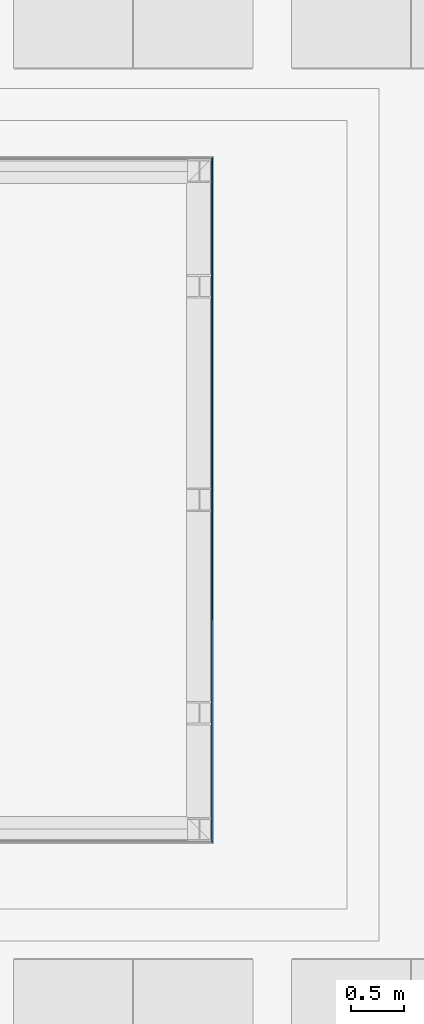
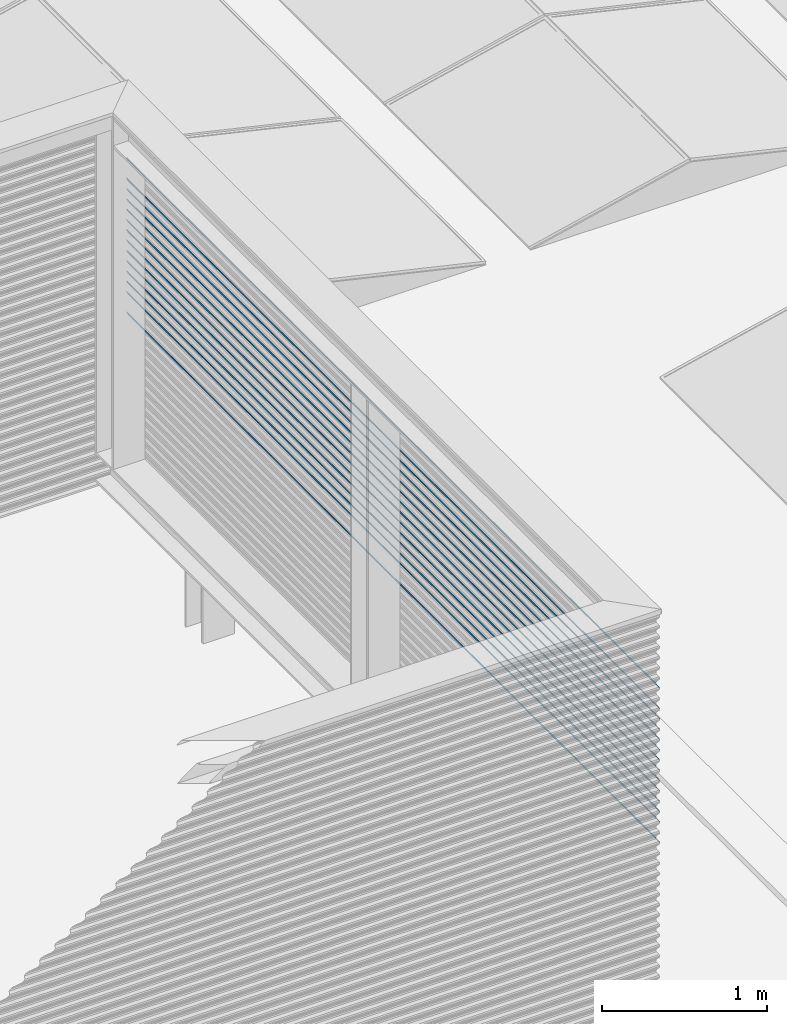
# One storey, part 41 of 63: 14 building element parts, 1 element without a shape of its own.
"""IFC2X3 building model written with IfcOpenShell, lengths in millimetres."""

from ifc_helpers import new_model, entity, si_unit, converted_unit, derived_unit, money_unit, direction, frame, origin_with_axes, place, context, subcontext, project, spatial, faceted_brep, material, type_object, element, aggregate, save


model = new_model("IFC2X3")

# Units and contexts
model_context = context("Model", 3, precision=0.01, world=origin_with_axes(), true_north=direction((0.0, 1.0)))
body_context = subcontext(model_context, "Body", "Model", "MODEL_VIEW")
ifc_project = project(units=[si_unit("LENGTHUNIT", "METRE", prefix="MILLI"), si_unit("AREAUNIT", "SQUARE_METRE"), si_unit("VOLUMEUNIT", "CUBIC_METRE"), converted_unit("PLANEANGLEUNIT", "DEGREE", entity("IfcPlaneAngleMeasure", 0.0174532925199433), si_unit("PLANEANGLEUNIT", "RADIAN"), dimensions=[0, 0, 0, 0, 0, 0, 0]), money_unit("EUR"), converted_unit("TIMEUNIT", "Year", entity("IfcTimeMeasure", 31557600.0), si_unit("TIMEUNIT", "SECOND"), dimensions=[0, 0, 1, 0, 0, 0, 0]), si_unit("MASSUNIT", "GRAM", prefix="KILO"), si_unit("THERMODYNAMICTEMPERATUREUNIT", "DEGREE_CELSIUS"), si_unit("LUMINOUSINTENSITYUNIT", "LUMEN"), si_unit("ENERGYUNIT", "JOULE", prefix="MEGA"), derived_unit("THERMALCONDUCTANCEUNIT", [(si_unit("POWERUNIT", "WATT"), 1), (si_unit("LENGTHUNIT", "METRE"), -1), (si_unit("THERMODYNAMICTEMPERATUREUNIT", "KELVIN"), -1)]), derived_unit("SPECIFICHEATCAPACITYUNIT", [(si_unit("ENERGYUNIT", "JOULE"), 1), (si_unit("MASSUNIT", "GRAM", prefix="KILO"), -1), (si_unit("THERMODYNAMICTEMPERATUREUNIT", "KELVIN"), -1)]), derived_unit("MASSDENSITYUNIT", [(si_unit("MASSUNIT", "GRAM", prefix="KILO"), 1), (si_unit("VOLUMEUNIT", "CUBIC_METRE"), -1)])], contexts=[model_context])

# Site, building, storey
site_placement = place(None, origin_with_axes())
site = spatial("IfcSite", under=ifc_project, at=site_placement, Name="<site naam>", CompositionType="ELEMENT")
building_placement = place(site_placement, origin_with_axes())
building = spatial("IfcBuilding", under=site, at=building_placement, Name="<Naam gebouw>", CompositionType="ELEMENT")
storey_placement = place(building_placement, frame((0.0, 0.0, 12770.0), z_axis=(0.0, 0.0, 1.0), x_axis=(1.0, 0.0, 0.0)))
storey = spatial("IfcBuildingStorey", under=building, at=storey_placement, Name="04 4e verdieping", CompositionType="ELEMENT", Elevation=12770.0)

# Wall, building element parts
wall_type = type_object("IfcWallType", Name="Gevelbeplating golf 18 x 2900", PredefinedType="NOTDEFINED")
wall_placement = place(storey_placement, frame((58128.00007858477, 6781.999921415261, 299.9552842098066), z_axis=(0.0, 0.0, 1.0), x_axis=(0.0, 1.0, 0.0)))
wall = element("IfcWall", 1, at=wall_placement, inside=storey, type_object=wall_type, Name="47_Binnenwand_Gevelbeplating")
ifc_material = material(Name="gevelafwerking type 3 - Aluminium RAL1036")
building_element_part_1_placement = place(wall_placement, origin_with_axes())
building_element_part_1 = element("IfcBuildingElementPart", 2, at=building_element_part_1_placement, material=ifc_material, Name="gevelafwerking type 3 - Aluminium RAL1036", context=body_context, shape_type="Brep", body=[
    faceted_brep([(3.340093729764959, 2.257327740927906, 1188.43178688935), (3.116447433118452, 2.188201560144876, 1188.112325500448), (0.9999690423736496, -3.095762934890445e-05, 1177.999999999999), (6436.000223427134, -3.095762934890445e-05, 1177.999983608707), (6433.742841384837, 2.257327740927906, 1188.43178688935), (9.041552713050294, 8.20951743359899, 1196.575878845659), (9.041552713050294, 9.041552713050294, 1196.575878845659), (3.116447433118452, 3.116447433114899, 1188.112325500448), (0.9999690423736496, 0.9999690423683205, 1177.999999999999), (6436.000223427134, 0.9999690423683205, 1177.999983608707), (6433.742841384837, 3.340093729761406, 1188.43178688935), (6433.811970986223, 3.116447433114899, 1188.112325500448), (6427.444962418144, 8.555221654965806, 1197.048886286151), (9.398091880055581, 8.555221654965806, 1197.048886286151), (15.62923191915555, 14.54420510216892, 1205.3155113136), (15.62923191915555, 15.62923191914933, 1205.3155113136), (6427.790663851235, 9.041552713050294, 1196.575878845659), (6427.444962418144, 9.39809188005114, 1197.048886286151), (6421.2250404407, 14.77516613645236, 1205.634310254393), (15.69996890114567, 14.77516613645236, 1205.634310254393), (17.99996904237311, 16.99996666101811, 1215.999999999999), (17.99996904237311, 17.99996904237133, 1215.999999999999), (6421.456002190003, 15.62923191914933, 1205.3155113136), (6421.2250404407, 15.69996890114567, 1205.634310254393), (6419.000241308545, 16.99996666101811, 1215.999997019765), (6419.000241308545, 17.99996904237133, 1215.999997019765)], [[[0, 1, 2, 3, 4]], [[1, 0, 5, 6, 7]], [[8, 2, 1, 7]], [[2, 8, 9, 3]], [[10, 4, 3, 9, 11]], [[5, 0, 4, 12, 13]], [[5, 13, 14, 15, 6]], [[7, 6, 16, 10, 11]], [[8, 7, 11, 9]], [[17, 12, 4, 10, 16]], [[14, 13, 12, 18, 19]], [[14, 19, 20, 21, 15]], [[6, 15, 22, 17, 16]], [[23, 18, 12, 17, 22]], [[20, 19, 18, 24]], [[21, 20, 24, 25]], [[15, 21, 25, 23, 22]], [[25, 24, 18, 23]]]),
])
building_element_part_2_placement = place(wall_placement, origin_with_axes())
building_element_part_2 = element("IfcBuildingElementPart", 3, at=building_element_part_2_placement, material=ifc_material, Name="gevelafwerking type 3 - Aluminium RAL1036", context=body_context, shape_type="Brep", body=[
    faceted_brep([(3.340096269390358, 2.257322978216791, 1340.431797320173), (3.11644267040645, 2.18819454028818, 1340.112325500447), (0.9999642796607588, -3.572034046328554e-05, 1330.0), (6436.000223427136, -3.572034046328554e-05, 1329.999994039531), (6433.74287992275, 2.257322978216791, 1340.431797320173), (9.041547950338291, 8.20950504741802, 1348.57587884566), (9.041547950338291, 9.041547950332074, 1348.57587884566), (3.11644267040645, 3.116442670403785, 1340.112325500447), (0.9999642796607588, 0.9999642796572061, 1330.0), (6436.000223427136, 0.9999642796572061, 1329.999994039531), (6433.74287992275, 3.340096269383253, 1340.431797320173), (6433.812006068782, 3.116442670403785, 1340.112325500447), (6427.444962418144, 8.555216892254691, 1349.048896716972), (9.39809497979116, 8.555216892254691, 1349.048896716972), (15.62922715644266, 14.5441927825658, 1357.315511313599), (15.62922715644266, 15.62922715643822, 1357.315511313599), (6427.790669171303, 9.041547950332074, 1348.57587884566), (6427.444962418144, 9.39809497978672, 1349.048896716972), (6421.225040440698, 14.77516137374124, 1357.634320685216), (15.69996645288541, 14.77516137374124, 1357.634320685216), (17.99996427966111, 16.99996189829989, 1368.0), (17.99996427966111, 17.99996427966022, 1368.0), (6421.456009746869, 15.62922715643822, 1357.315511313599), (6421.225040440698, 15.69996645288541, 1357.634320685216), (6419.000241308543, 16.99996189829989, 1368.000007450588), (6419.000241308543, 17.99996427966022, 1368.000007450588)], [[[0, 1, 2, 3, 4]], [[1, 0, 5, 6, 7]], [[8, 2, 1, 7]], [[2, 8, 9, 3]], [[10, 4, 3, 9, 11]], [[5, 0, 4, 12, 13]], [[5, 13, 14, 15, 6]], [[7, 6, 16, 10, 11]], [[8, 7, 11, 9]], [[17, 12, 4, 10, 16]], [[14, 13, 12, 18, 19]], [[14, 19, 20, 21, 15]], [[6, 15, 22, 17, 16]], [[23, 18, 12, 17, 22]], [[20, 19, 18, 24]], [[21, 20, 24, 25]], [[15, 21, 25, 23, 22]], [[25, 24, 18, 23]]]),
])
building_element_part_3_placement = place(wall_placement, origin_with_axes())
building_element_part_3 = element("IfcBuildingElementPart", 4, at=building_element_part_3_placement, material=ifc_material, Name="gevelafwerking type 3 - Aluminium RAL1036", context=body_context, shape_type="Brep", body=[
    faceted_brep([(3.34009880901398, 2.257318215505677, 1492.431807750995), (3.116437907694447, 2.188187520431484, 1492.112325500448), (0.9999595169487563, -4.048305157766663e-05, 1481.999999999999), (6436.000223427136, -4.048305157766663e-05, 1482.000004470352), (6433.742879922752, 2.257318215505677, 1492.431807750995), (9.0415431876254, 8.20949266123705, 1500.575878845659), (9.0415431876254, 9.04154318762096, 1500.575878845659), (3.116437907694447, 3.116437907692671, 1492.112325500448), (0.9999595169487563, 0.9999595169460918, 1481.999999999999), (6436.000223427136, 0.9999595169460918, 1482.000004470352), (6433.742879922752, 3.340098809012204, 1492.431807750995), (6433.812008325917, 3.116437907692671, 1492.112325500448), (6427.444962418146, 8.555212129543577, 1501.048907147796), (9.398098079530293, 8.555212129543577, 1501.048907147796), (15.62922239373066, 14.54418046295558, 1509.315511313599), (15.62922239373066, 15.6292223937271, 1509.315511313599), (6427.790676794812, 9.04154318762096, 1500.575878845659), (6427.444962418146, 9.398098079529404, 1501.048907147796), (6421.225040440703, 14.77515661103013, 1509.634331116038), (15.69996400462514, 14.77515661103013, 1509.634331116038), (17.9999595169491, 16.99995713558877, 1520.0), (17.9999595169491, 17.999959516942, 1520.0), (6421.45601730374, 15.6292223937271, 1509.315511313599), (6421.225040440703, 15.69996400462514, 1509.634331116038), (6419.000241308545, 16.99995713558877, 1520.00001788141), (6419.000241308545, 17.9999595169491, 1520.00001788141)], [[[0, 1, 2, 3, 4]], [[1, 0, 5, 6, 7]], [[8, 2, 1, 7]], [[2, 8, 9, 3]], [[10, 4, 3, 9, 11]], [[5, 0, 4, 12, 13]], [[5, 13, 14, 15, 6]], [[7, 6, 16, 10, 11]], [[8, 7, 11, 9]], [[17, 12, 4, 10, 16]], [[14, 13, 12, 18, 19]], [[14, 19, 20, 21, 15]], [[6, 15, 22, 17, 16]], [[23, 18, 12, 17, 22]], [[20, 19, 18, 24]], [[21, 20, 24, 25]], [[15, 21, 25, 23, 22]], [[25, 24, 18, 23]]]),
])
building_element_part_4_placement = place(wall_placement, origin_with_axes())
building_element_part_4 = element("IfcBuildingElementPart", 5, at=building_element_part_4_placement, material=ifc_material, Name="gevelafwerking type 3 - Aluminium RAL1036", context=body_context, shape_type="Brep", body=[
    faceted_brep([(3.340082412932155, 2.257320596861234, 1416.43178092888), (3.116440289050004, 2.188186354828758, 1416.112325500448), (0.9999618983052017, -3.810169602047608e-05, 1406.000000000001), (6436.000223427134, -3.810169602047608e-05, 1406.000020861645), (6433.742884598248, 2.257320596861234, 1416.43178092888), (9.041545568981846, 8.209514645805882, 1424.575878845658), (9.041545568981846, 9.041545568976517, 1424.575878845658), (3.116440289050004, 3.116440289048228, 1416.112325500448), (0.9999618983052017, 0.9999618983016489, 1406.000000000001), (6436.000223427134, 0.9999618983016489, 1406.000020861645), (6433.742884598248, 3.340082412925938, 1416.43178092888), (6433.812011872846, 3.116440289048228, 1416.112325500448), (6427.444962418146, 8.555214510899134, 1425.048880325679), (9.398080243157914, 8.555214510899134, 1425.048880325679), (15.6292247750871, 14.54420227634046, 1433.3155113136), (15.6292247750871, 15.62922477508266, 1433.3155113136), (6427.790661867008, 9.041545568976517, 1424.575878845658), (6427.444962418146, 9.398080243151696, 1425.048880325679), (6421.2250404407, 14.77515899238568, 1433.634304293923), (15.69996043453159, 14.77515899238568, 1433.634304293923), (17.99996189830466, 16.99995951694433, 1443.999999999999), (17.99996189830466, 17.99996189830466, 1443.999999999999), (6421.455997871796, 15.62922477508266, 1433.3155113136), (6421.2250404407, 15.69996043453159, 1433.634304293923), (6419.000241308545, 16.99995951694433, 1443.999991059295), (6419.000241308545, 17.99996189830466, 1443.999991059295)], [[[0, 1, 2, 3, 4]], [[1, 0, 5, 6, 7]], [[8, 2, 1, 7]], [[2, 8, 9, 3]], [[10, 4, 3, 9, 11]], [[5, 0, 4, 12, 13]], [[5, 13, 14, 15, 6]], [[7, 6, 16, 10, 11]], [[8, 7, 11, 9]], [[17, 12, 4, 10, 16]], [[14, 13, 12, 18, 19]], [[14, 19, 20, 21, 15]], [[6, 15, 22, 17, 16]], [[23, 18, 12, 17, 22]], [[20, 19, 18, 24]], [[21, 20, 24, 25]], [[15, 21, 25, 23, 22]], [[25, 24, 18, 23]]]),
])
building_element_part_5_placement = place(wall_placement, origin_with_axes())
building_element_part_5 = element("IfcBuildingElementPart", 6, at=building_element_part_5_placement, material=ifc_material, Name="gevelafwerking type 3 - Aluminium RAL1036", context=body_context, shape_type="Brep", body=[
    faceted_brep([(3.340084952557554, 2.25731583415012, 1568.431791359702), (3.116435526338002, 2.188188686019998, 1568.112325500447), (0.9999571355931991, -4.286440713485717e-05, 1558.0), (6436.000218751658, -4.286440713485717e-05, 1557.999988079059), (6433.742879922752, 2.25731583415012, 1568.431791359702), (9.041540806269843, 8.209502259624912, 1576.575878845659), (9.041540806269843, 9.041540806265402, 1576.575878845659), (3.116435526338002, 3.116435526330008, 1568.112325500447), (0.9999571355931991, 0.9999571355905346, 1558.0), (6436.000218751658, 0.9999571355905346, 1557.999988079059), (6433.742879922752, 3.340084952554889, 1568.431791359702), (6433.812000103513, 3.116435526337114, 1568.112325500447), (6427.444962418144, 8.55520974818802, 1577.048890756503), (9.398083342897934, 8.55520974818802, 1577.048890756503), (15.6292200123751, 14.54418995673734, 1585.315511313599), (15.6292200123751, 15.62922001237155, 1585.315511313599), (6427.790664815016, 9.041540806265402, 1576.575878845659), (6427.444962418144, 9.398083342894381, 1577.048890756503), (6421.2250404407, 14.77515422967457, 1585.634314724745), (15.69995798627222, 14.77515422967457, 1585.634314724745), (17.99995713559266, 16.99995475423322, 1596.0), (17.99995713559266, 17.99995713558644, 1596.0), (6421.456005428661, 15.62922001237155, 1585.315511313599), (6421.2250404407, 15.69995798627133, 1585.634314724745), (6419.000241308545, 16.99995475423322, 1596.000001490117), (6419.000241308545, 17.99995713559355, 1596.000001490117)], [[[0, 1, 2, 3, 4]], [[1, 0, 5, 6, 7]], [[8, 2, 1, 7]], [[2, 8, 9, 3]], [[10, 4, 3, 9, 11]], [[5, 0, 4, 12, 13]], [[5, 13, 14, 15, 6]], [[7, 6, 16, 10, 11]], [[8, 7, 11, 9]], [[17, 12, 4, 10, 16]], [[14, 13, 12, 18, 19]], [[14, 19, 20, 21, 15]], [[6, 15, 22, 17, 16]], [[23, 18, 12, 17, 22]], [[20, 19, 18, 24]], [[21, 20, 24, 25]], [[15, 21, 25, 23, 22]], [[25, 24, 18, 23]]]),
])
building_element_part_6_placement = place(wall_placement, origin_with_axes())
building_element_part_6 = element("IfcBuildingElementPart", 7, at=building_element_part_6_placement, material=ifc_material, Name="gevelafwerking type 3 - Aluminium RAL1036", context=body_context, shape_type="Brep", body=[
    faceted_brep([(3.340087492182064, 2.257311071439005, 1720.431801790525), (3.116430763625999, 2.188181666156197, 1720.112325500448), (0.9999523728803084, -4.762712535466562e-05, 1709.999999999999), (6436.000223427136, -4.762712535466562e-05, 1709.999998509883), (6433.742879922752, 2.257311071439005, 1720.431801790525), (9.04153604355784, 8.209489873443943, 1728.575878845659), (9.04153604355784, 9.041536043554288, 1728.575878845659), (3.116430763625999, 3.116430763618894, 1720.112325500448), (0.9999523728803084, 0.9999523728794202, 1709.999999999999), (6436.000223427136, 0.9999523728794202, 1709.999998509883), (6433.742879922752, 3.340087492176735, 1720.431801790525), (6433.812007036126, 3.116430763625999, 1720.112325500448), (6427.444962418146, 8.555204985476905, 1729.048901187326), (9.398086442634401, 8.555204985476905, 1729.048901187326), (15.62921524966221, 14.54417763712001, 1737.315511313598), (15.62921524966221, 15.62921524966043, 1737.315511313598), (6427.790672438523, 9.041536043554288, 1728.575878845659), (6427.444962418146, 9.39808644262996, 1729.048901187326), (6421.2250404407, 14.77514946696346, 1737.634325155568), (15.69995553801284, 14.77514946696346, 1737.634325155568), (17.99995237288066, 16.9999499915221, 1747.999999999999), (17.99995237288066, 17.99995237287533, 1747.999999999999), (6421.456012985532, 15.62921524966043, 1737.315511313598), (6421.2250404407, 15.69995553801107, 1737.634325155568), (6419.000241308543, 16.9999499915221, 1748.00001192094), (6419.000241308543, 17.99995237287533, 1748.00001192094)], [[[0, 1, 2, 3, 4]], [[1, 0, 5, 6, 7]], [[8, 2, 1, 7]], [[2, 8, 9, 3]], [[10, 4, 3, 9, 11]], [[5, 0, 4, 12, 13]], [[5, 13, 14, 15, 6]], [[7, 6, 16, 10, 11]], [[8, 7, 11, 9]], [[17, 12, 4, 10, 16]], [[14, 13, 12, 18, 19]], [[14, 19, 20, 21, 15]], [[6, 15, 22, 17, 16]], [[23, 18, 12, 17, 22]], [[20, 19, 18, 24]], [[21, 20, 24, 25]], [[15, 21, 25, 23, 22]], [[25, 24, 18, 23]]]),
])
building_element_part_7_placement = place(wall_placement, origin_with_axes())
building_element_part_7 = element("IfcBuildingElementPart", 8, at=building_element_part_7_placement, material=ifc_material, Name="gevelafwerking type 3 - Aluminium RAL1036", context=body_context, shape_type="Brep", body=[
    faceted_brep([(3.340071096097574, 2.257313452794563, 1644.431774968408), (3.116433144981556, 2.188180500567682, 1644.112325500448), (0.9999547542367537, -4.524576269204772e-05, 1633.999999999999), (6436.000223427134, -4.524576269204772e-05, 1634.000014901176), (6433.742884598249, 2.257313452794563, 1644.431774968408), (9.041538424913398, 8.209511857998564, 1652.57587884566), (9.041538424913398, 9.041538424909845, 1652.57587884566), (3.116433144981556, 3.116433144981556, 1644.112325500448), (0.9999547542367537, 0.9999547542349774, 1633.999999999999), (6436.000223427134, 0.9999547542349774, 1634.000014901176), (6433.742884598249, 3.340071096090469, 1644.431774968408), (6433.812010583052, 3.116433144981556, 1644.112325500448), (6427.444962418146, 8.555207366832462, 1653.04887436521), (9.39806860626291, 8.555207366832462, 1653.04887436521), (15.62921763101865, 14.54419945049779, 1661.315511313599), (15.62921763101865, 15.62921763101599, 1661.315511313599), (6427.790657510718, 9.041538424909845, 1652.57587884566), (6427.444962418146, 9.398068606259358, 1653.04887436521), (6421.225040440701, 14.77515184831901, 1661.634298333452), (15.69995196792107, 14.77515184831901, 1661.634298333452), (17.9999547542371, 16.99995237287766, 1671.999999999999), (17.9999547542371, 17.99995475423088, 1671.999999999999), (6421.455993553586, 15.62921763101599, 1661.315511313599), (6421.225040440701, 15.69995196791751, 1661.634298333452), (6419.000241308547, 16.99995237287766, 1671.999985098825), (6419.000241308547, 17.99995475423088, 1671.999985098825)], [[[0, 1, 2, 3, 4]], [[1, 0, 5, 6, 7]], [[8, 2, 1, 7]], [[2, 8, 9, 3]], [[10, 4, 3, 9, 11]], [[5, 0, 4, 12, 13]], [[5, 13, 14, 15, 6]], [[7, 6, 16, 10, 11]], [[8, 7, 11, 9]], [[17, 12, 4, 10, 16]], [[14, 13, 12, 18, 19]], [[14, 19, 20, 21, 15]], [[6, 15, 22, 17, 16]], [[23, 18, 12, 17, 22]], [[20, 19, 18, 24]], [[21, 20, 24, 25]], [[15, 21, 25, 23, 22]], [[25, 24, 18, 23]]]),
])
building_element_part_8_placement = place(wall_placement, origin_with_axes())
building_element_part_8 = element("IfcBuildingElementPart", 9, at=building_element_part_8_placement, material=ifc_material, Name="gevelafwerking type 3 - Aluminium RAL1036", context=body_context, shape_type="Brep", body=[
    faceted_brep([(3.340073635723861, 2.257308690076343, 1796.431785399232), (3.116428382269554, 2.188182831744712, 1796.112325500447), (0.9999499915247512, -5.000848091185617e-05, 1786.0), (6436.000218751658, -5.000848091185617e-05, 1785.99998211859), (6433.742879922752, 2.257308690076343, 1796.431785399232), (9.041533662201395, 8.209499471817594, 1804.575878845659), (9.041533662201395, 9.04153366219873, 1804.575878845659), (3.116428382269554, 3.116428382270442, 1796.112325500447), (0.9999499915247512, 0.999949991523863, 1786.0), (6436.000218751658, 0.999949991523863, 1785.99998211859), (6433.742879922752, 3.340073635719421, 1796.431785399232), (6433.81199881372, 3.116428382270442, 1796.112325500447), (6427.445005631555, 8.555202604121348, 1805.048884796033), (9.398071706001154, 8.555202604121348, 1805.048884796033), (15.62921286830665, 14.54418713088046, 1813.315511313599), (15.62921286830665, 15.62921286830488, 1813.315511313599), (6427.790701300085, 9.04153366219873, 1804.575878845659), (6427.445005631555, 9.398071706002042, 1805.048884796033), (6421.2250404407, 14.77514708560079, 1813.634308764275), (15.69994951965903, 14.77514708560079, 1813.634308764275), (17.99994999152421, 16.99994761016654, 1824.0), (17.99994999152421, 17.99994999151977, 1824.0), (6421.456002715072, 15.62921286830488, 1813.315511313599), (6421.2250404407, 15.69994951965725, 1813.634308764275), (6419.000241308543, 16.99994761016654, 1823.999995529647), (6419.000241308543, 17.99994999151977, 1823.999995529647)], [[[0, 1, 2, 3, 4]], [[1, 0, 5, 6, 7]], [[8, 2, 1, 7]], [[2, 8, 9, 3]], [[10, 4, 3, 9, 11]], [[5, 0, 4, 12, 13]], [[5, 13, 14, 15, 6]], [[7, 6, 16, 10, 11]], [[8, 7, 11, 9]], [[17, 12, 4, 10, 16]], [[14, 13, 12, 18, 19]], [[14, 19, 20, 21, 15]], [[6, 15, 22, 17, 16]], [[23, 18, 12, 17, 22]], [[20, 19, 18, 24]], [[21, 20, 24, 25]], [[15, 21, 25, 23, 22]], [[25, 24, 18, 23]]]),
])
building_element_part_9_placement = place(wall_placement, origin_with_axes())
building_element_part_9 = element("IfcBuildingElementPart", 10, at=building_element_part_9_placement, material=ifc_material, Name="gevelafwerking type 3 - Aluminium RAL1036", context=body_context, shape_type="Brep", body=[
    faceted_brep([(3.340059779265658, 2.257306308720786, 1872.431769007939), (3.116426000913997, 2.188174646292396, 1872.112325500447), (0.9999476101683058, -5.238983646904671e-05, 1862.0), (6436.000223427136, -5.238983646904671e-05, 1862.000008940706), (6433.742884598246, 2.257306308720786, 1872.431769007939), (9.04153128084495, 8.20950907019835, 1880.57587884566), (9.04153128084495, 9.041531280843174, 1880.57587884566), (3.116426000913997, 3.116426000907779, 1872.112325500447), (0.9999476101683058, 0.9999476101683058, 1862.0), (6436.000223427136, 0.9999476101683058, 1862.000008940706), (6433.812009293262, 3.116426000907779, 1872.112325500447), (6433.742884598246, 3.340059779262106, 1872.431769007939), (6427.445005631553, 8.555200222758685, 1881.048911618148), (9.398089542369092, 8.555200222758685, 1881.048911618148), (15.62921048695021, 14.54416531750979, 1889.315511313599), (15.62921048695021, 15.62921048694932, 1889.315511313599), (6427.790723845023, 9.041531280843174, 1880.57587884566), (6427.445005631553, 9.39808954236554, 1881.048911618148), (6421.225035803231, 14.77514470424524, 1889.634335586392), (15.69995308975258, 14.77514470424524, 1889.634335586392), (17.99994761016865, 16.99994522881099, 1900.0), (17.99994761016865, 17.99994761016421, 1900.0), (6421.456022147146, 15.62921048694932, 1889.315511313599), (6421.225035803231, 15.69995308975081, 1889.634335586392), (6419.000241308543, 16.99994522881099, 1899.999979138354), (6419.000241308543, 17.99994761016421, 1899.999979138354)], [[[0, 1, 2, 3, 4]], [[1, 0, 5, 6, 7]], [[8, 2, 1, 7]], [[2, 8, 9, 3]], [[9, 10, 11, 4, 3]], [[5, 0, 4, 12, 13]], [[5, 13, 14, 15, 6]], [[7, 6, 16, 11, 10]], [[8, 7, 10, 9]], [[11, 16, 17, 12, 4]], [[14, 13, 12, 18, 19]], [[14, 19, 20, 21, 15]], [[6, 15, 22, 17, 16]], [[17, 22, 23, 18, 12]], [[20, 19, 18, 24]], [[21, 20, 24, 25]], [[15, 21, 25, 23, 22]], [[18, 23, 25, 24]]]),
])
building_element_part_10_placement = place(wall_placement, origin_with_axes())
building_element_part_10 = element("IfcBuildingElementPart", 11, at=building_element_part_10_placement, material=ifc_material, Name="gevelafwerking type 3 - Aluminium RAL1036", context=body_context, shape_type="Brep", body=[
    faceted_brep([(3.340078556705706, 2.257306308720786, 1948.431795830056), (3.116426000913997, 2.188178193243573, 1948.112325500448), (0.9999476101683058, -5.238983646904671e-05, 1937.999999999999), (6436.000223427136, -5.238983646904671e-05, 1937.999992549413), (6433.742879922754, 2.257306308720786, 1948.431795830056), (9.04153128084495, 8.209489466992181, 1956.575878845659), (9.04153128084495, 9.041531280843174, 1956.575878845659), (3.116426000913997, 3.116426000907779, 1948.112325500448), (0.9999476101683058, 0.9999476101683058, 1937.999999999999), (6436.000223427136, 0.9999476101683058, 1937.999992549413), (6433.742879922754, 3.340078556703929, 1948.431795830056), (6433.812005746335, 3.116426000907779, 1948.112325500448), (6427.445005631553, 8.55520022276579, 1957.048895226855), (9.398077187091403, 8.55520022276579, 1957.048895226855), (15.62921048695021, 14.5441771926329, 1965.3155113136), (15.62921048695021, 15.62921048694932, 1965.3155113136), (6427.790708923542, 9.041531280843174, 1956.575878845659), (6427.445005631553, 9.398077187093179, 1957.048895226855), (6421.2250404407, 14.77514470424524, 1965.634319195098), (15.69994945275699, 14.77514470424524, 1965.634319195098), (17.99994761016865, 16.99994522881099, 1975.999999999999), (17.99994761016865, 17.99994761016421, 1975.999999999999), (6421.456010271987, 15.62921048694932, 1965.3155113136), (6421.2250404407, 15.69994945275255, 1965.634319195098), (6419.000241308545, 16.99994522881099, 1976.00000596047), (6419.000241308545, 17.99994761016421, 1976.00000596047)], [[[0, 1, 2, 3, 4]], [[1, 0, 5, 6, 7]], [[8, 2, 1, 7]], [[2, 8, 9, 3]], [[10, 4, 3, 9, 11]], [[5, 0, 4, 12, 13]], [[5, 13, 14, 15, 6]], [[7, 6, 16, 10, 11]], [[8, 7, 11, 9]], [[17, 12, 4, 10, 16]], [[14, 13, 12, 18, 19]], [[14, 19, 20, 21, 15]], [[6, 15, 22, 17, 16]], [[23, 18, 12, 17, 22]], [[20, 19, 18, 24]], [[21, 20, 24, 25]], [[15, 21, 25, 23, 22]], [[25, 24, 18, 23]]]),
])
building_element_part_11_placement = place(wall_placement, origin_with_axes())
building_element_part_11 = element("IfcBuildingElementPart", 12, at=building_element_part_11_placement, material=ifc_material, Name="gevelafwerking type 3 - Aluminium RAL1036", context=body_context, shape_type="Brep", body=[
    faceted_brep([(3.340081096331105, 2.257301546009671, 2100.431806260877), (3.116421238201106, 2.188171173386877, 2100.112325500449), (0.9999428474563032, -5.71525475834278e-05, 2090.0), (6436.000266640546, -5.71525475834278e-05, 2090.000002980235), (6433.742884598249, 2.257301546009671, 2100.431806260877), (9.041526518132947, 8.209477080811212, 2108.57587884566), (9.041526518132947, 9.04152651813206, 2108.57587884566), (3.116421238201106, 3.116421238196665, 2100.112325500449), (0.9999428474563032, 0.9999428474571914, 2090.0), (6436.000266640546, 0.9999428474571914, 2090.000002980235), (6433.742884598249, 3.340081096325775, 2100.431806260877), (6433.812018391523, 3.116421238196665, 2100.112325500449), (6427.445005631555, 8.555195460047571, 2109.048905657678), (9.398080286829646, 8.555195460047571, 2109.048905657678), (15.6292057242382, 14.54416487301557, 2117.315511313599), (15.6292057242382, 15.6292057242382, 2117.315511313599), (6427.79072122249, 9.04152651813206, 2108.57587884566), (6427.445005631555, 9.398080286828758, 2109.048905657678), (6421.225040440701, 14.77513994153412, 2117.63432962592), (15.69994700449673, 14.77513994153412, 2117.63432962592), (17.99994284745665, 16.99994046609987, 2127.999999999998), (17.99994284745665, 17.9999428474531, 2127.999999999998), (6421.456017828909, 15.6292057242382, 2117.315511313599), (6421.225040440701, 15.69994700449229, 2117.63432962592), (6419.000241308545, 16.99994046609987, 2128.000016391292), (6419.000241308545, 17.9999428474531, 2128.000016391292)], [[[0, 1, 2, 3, 4]], [[1, 0, 5, 6, 7]], [[8, 2, 1, 7]], [[2, 8, 9, 3]], [[10, 4, 3, 9, 11]], [[5, 0, 4, 12, 13]], [[5, 13, 14, 15, 6]], [[7, 6, 16, 10, 11]], [[8, 7, 11, 9]], [[17, 12, 4, 10, 16]], [[14, 13, 12, 18, 19]], [[14, 19, 20, 21, 15]], [[6, 15, 22, 17, 16]], [[23, 18, 12, 17, 22]], [[20, 19, 18, 24]], [[21, 20, 24, 25]], [[15, 21, 25, 23, 22]], [[25, 24, 18, 23]]]),
])
building_element_part_12_placement = place(wall_placement, origin_with_axes())
building_element_part_12 = element("IfcBuildingElementPart", 13, at=building_element_part_12_placement, material=ifc_material, Name="gevelafwerking type 3 - Aluminium RAL1036", context=body_context, shape_type="Brep", body=[
    faceted_brep([(3.340064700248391, 2.257303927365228, 2024.431779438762), (3.116423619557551, 2.188170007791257, 2024.112325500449), (0.9999452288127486, -5.477119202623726e-05, 2013.999999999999), (6436.000223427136, -5.477119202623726e-05, 2014.000019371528), (6433.742884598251, 2.257303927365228, 2024.431779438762), (9.041528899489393, 8.209499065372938, 2032.575878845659), (9.041528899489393, 9.041528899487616, 2032.575878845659), (3.116423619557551, 3.116423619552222, 2024.112325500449), (0.9999452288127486, 0.9999452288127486, 2013.999999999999), (6436.000223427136, 0.9999452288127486, 2014.000019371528), (6433.742884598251, 3.340064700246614, 2024.431779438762), (6433.812011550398, 3.116423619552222, 2024.112325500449), (6427.445005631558, 8.555197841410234, 2033.048878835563), (9.398062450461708, 8.555197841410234, 2033.048878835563), (15.62920810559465, 14.54418668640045, 2041.315511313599), (15.62920810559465, 15.62920810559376, 2041.315511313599), (6427.790701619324, 9.041528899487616, 2032.575878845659), (6427.445005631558, 9.398062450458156, 2033.048878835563), (6421.225040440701, 14.77514232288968, 2041.634302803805), (15.69994343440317, 14.77514232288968, 2041.634302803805), (17.99994522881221, 16.99994284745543, 2052.0), (17.99994522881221, 17.99994522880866, 2052.0), (6421.455998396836, 15.62920810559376, 2041.315511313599), (6421.225040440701, 15.69994343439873, 2041.634302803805), (6419.000241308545, 16.99994284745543, 2051.999989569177), (6419.000241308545, 17.99994522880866, 2051.999989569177)], [[[0, 1, 2, 3, 4]], [[1, 0, 5, 6, 7]], [[8, 2, 1, 7]], [[2, 8, 9, 3]], [[10, 4, 3, 9, 11]], [[5, 0, 4, 12, 13]], [[5, 13, 14, 15, 6]], [[7, 6, 16, 10, 11]], [[8, 7, 11, 9]], [[17, 12, 4, 10, 16]], [[14, 13, 12, 18, 19]], [[14, 19, 20, 21, 15]], [[6, 15, 22, 17, 16]], [[23, 18, 12, 17, 22]], [[20, 19, 18, 24]], [[21, 20, 24, 25]], [[15, 21, 25, 23, 22]], [[25, 24, 18, 23]]]),
])
building_element_part_13_placement = place(wall_placement, origin_with_axes())
building_element_part_13 = element("IfcBuildingElementPart", 14, at=building_element_part_13_placement, material=ifc_material, Name="gevelafwerking type 3 - Aluminium RAL1036", context=body_context, shape_type="Brep", body=[
    faceted_brep([(3.34006723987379, 2.257299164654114, 2176.431789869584), (3.116418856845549, 2.188172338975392, 2176.112325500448), (0.9999404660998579, -5.953390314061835e-05, 2165.999999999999), (6436.000266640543, -5.953390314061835e-05, 2165.999986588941), (6433.742884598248, 2.257299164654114, 2176.431789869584), (9.04152413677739, 8.209486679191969, 2184.575878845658), (9.04152413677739, 9.041524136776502, 2184.575878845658), (3.116418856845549, 3.116418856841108, 2176.112325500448), (0.9999404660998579, 0.9999404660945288, 2165.999999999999), (6436.000266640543, 0.9999404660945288, 2165.999986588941), (6433.742884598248, 3.340067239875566, 2176.431789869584), (6433.812014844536, 3.116418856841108, 2176.112325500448), (6427.445005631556, 8.555193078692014, 2185.048889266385), (9.3980655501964, 8.555193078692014, 2185.048889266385), (15.62920334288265, 14.54417436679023, 2193.315511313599), (15.62920334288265, 15.62920334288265, 2193.315511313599), (6427.790709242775, 9.041524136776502, 2184.575878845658), (6427.445005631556, 9.398065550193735, 2185.048889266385), (6421.225040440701, 14.77513756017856, 2193.634313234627), (15.69994098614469, 14.77513756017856, 2193.634313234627), (17.99994046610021, 16.99993808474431, 2203.999999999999), (17.99994046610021, 17.99994046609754, 2203.999999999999), (6421.456005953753, 15.62920334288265, 2193.315511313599), (6421.225040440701, 15.69994098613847, 2193.634313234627), (6419.000241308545, 16.99993808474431, 2203.999999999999), (6419.000241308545, 17.99994046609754, 2203.999999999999)], [[[0, 1, 2, 3, 4]], [[1, 0, 5, 6, 7]], [[8, 2, 1, 7]], [[2, 8, 9, 3]], [[10, 4, 3, 9, 11]], [[5, 0, 4, 12, 13]], [[5, 13, 14, 15, 6]], [[7, 6, 16, 10, 11]], [[8, 7, 11, 9]], [[17, 12, 4, 10, 16]], [[14, 13, 12, 18, 19]], [[14, 19, 20, 21, 15]], [[6, 15, 22, 17, 16]], [[23, 18, 12, 17, 22]], [[20, 19, 18, 24]], [[21, 20, 24, 25]], [[15, 21, 25, 23, 22]], [[25, 24, 18, 23]]]),
])
building_element_part_14_placement = place(wall_placement, origin_with_axes())
building_element_part_14 = element("IfcBuildingElementPart", 15, at=building_element_part_14_placement, material=ifc_material, Name="gevelafwerking type 3 - Aluminium RAL1036", context=body_context, shape_type="Brep", body=[
    faceted_brep([(3.340069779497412, 2.257294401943, 2328.431800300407), (3.116414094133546, 2.18816531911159, 2328.112325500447), (0.9999357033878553, -6.429661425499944e-05, 2318.0), (6436.000266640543, -6.429661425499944e-05, 2317.999997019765), (6433.742884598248, 2.257294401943, 2328.431800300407), (9.0415193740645, 8.209474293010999, 2336.575878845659), (9.0415193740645, 9.041519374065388, 2336.575878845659), (3.116414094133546, 3.116414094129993, 2328.112325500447), (0.9999357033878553, 0.9999357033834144, 2318.0), (6436.000266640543, 0.9999357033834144, 2317.999997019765), (6433.742884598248, 3.340069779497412, 2328.431800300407), (6433.812017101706, 3.116414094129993, 2328.112325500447), (6427.445005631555, 8.5551883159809, 2337.048899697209), (9.398068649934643, 8.5551883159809, 2337.048899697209), (15.62919858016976, 14.54416204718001, 2345.315511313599), (15.62919858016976, 15.62919858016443, 2345.315511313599), (6427.790716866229, 9.041519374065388, 2336.575878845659), (6427.445005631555, 9.398068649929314, 2337.048899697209), (6421.225040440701, 14.77513279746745, 2345.63432366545), (15.69993853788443, 14.77513279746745, 2345.63432366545), (17.9999357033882, 16.9999333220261, 2356.0), (17.9999357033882, 17.99993570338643, 2356.0), (6421.456013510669, 15.62919858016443, 2345.315511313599), (6421.225040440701, 15.69993853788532, 2345.63432366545), (6419.000241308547, 16.9999333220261, 2356.000010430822), (6419.000241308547, 17.99993570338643, 2356.000010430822)], [[[0, 1, 2, 3, 4]], [[1, 0, 5, 6, 7]], [[8, 2, 1, 7]], [[2, 8, 9, 3]], [[10, 4, 3, 9, 11]], [[5, 0, 4, 12, 13]], [[5, 13, 14, 15, 6]], [[7, 6, 16, 10, 11]], [[8, 7, 11, 9]], [[17, 12, 4, 10, 16]], [[14, 13, 12, 18, 19]], [[14, 19, 20, 21, 15]], [[6, 15, 22, 17, 16]], [[23, 18, 12, 17, 22]], [[20, 19, 18, 24]], [[21, 20, 24, 25]], [[15, 21, 25, 23, 22]], [[25, 24, 18, 23]]]),
])
aggregate(wall, [building_element_part_1, building_element_part_2, building_element_part_3, building_element_part_4, building_element_part_5, building_element_part_6, building_element_part_7, building_element_part_8, building_element_part_9, building_element_part_10, building_element_part_11, building_element_part_12, building_element_part_13, building_element_part_14])

save(model, "model.ifc")
